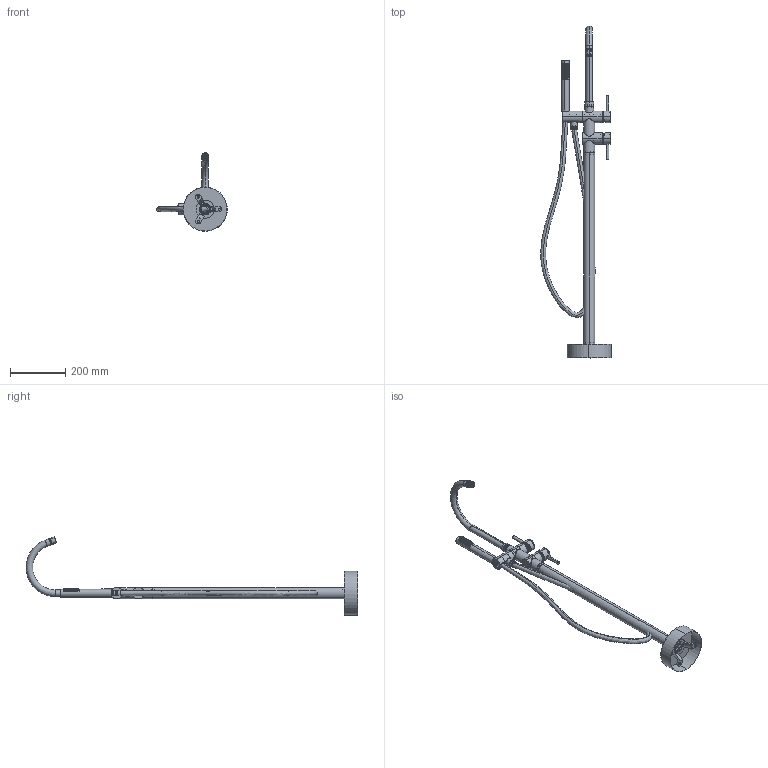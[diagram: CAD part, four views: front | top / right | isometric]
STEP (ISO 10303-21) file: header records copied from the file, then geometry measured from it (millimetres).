
FILE_DESCRIPTION (( 'STEP AP214' ), '1' );
FILE_NAME ('9103.STEP', '2020-02-06T05:59:07', ( '微软用户' ), ( '微软中国' ), 'SwSTEP 2.0', 'SolidWorks 2014', '' );
FILE_SCHEMA (( 'AUTOMOTIVE_DESIGN' ));
Length unit declared in the file: millimetre
Products named in the file (27): 8703花洒; 9103煦阨极(ぱ籵35郋); 9103花洒接牙; 9103肣奪(35郋); 9103忒謫裝ㄗ35郋ㄘ; 9103樓詢杶(35郋); 27.8X24X1.2减磨圈; 9103极(ぱ籵35郋); 9103郋ㄗ35郋ㄘ; 24奪誘杶; 9103; 9103蚾庉戚ㄗ35郋ㄘ; 35-1蚾庉戚ㄗ呿蹋ㄘ; 35揤裔; D35P; 9103忒梟(35郋); 9103菁攫ㄗ35郋ㄘ; 9111嘐隅杶; 三爪卡盆; 9103肣奪ㄗ35郋ㄘ; 115擋杶; 115埴倛奪; 9103奪杶ㄗ35郋ㄘ; 9103花洒管; 9103諉杶ㄗ35郋ㄘ; 20厙郋; 9103花洒座（35芯）
Assembly tree (31 placements, depth 2):
  9103
    9103极(ぱ籵35郋)
    9103樓詢杶(35郋)
    9103肣奪(35郋)
    9103煦阨极(ぱ籵35郋)
    9103花洒座（35芯）
    9103諉杶ㄗ35郋ㄘ
    9103奪杶ㄗ35郋ㄘ
    115埴倛奪
    115擋杶
    9103肣奪ㄗ35郋ㄘ
    三爪卡盆
    9111嘐隅杶
    9103菁攫ㄗ35郋ㄘ
    9103忒梟(35郋)  x2
    D35P  x2
    35揤裔  x2
    35-1蚾庉戚ㄗ呿蹋ㄘ  x2
    9103蚾庉戚ㄗ35郋ㄘ
    24奪誘杶
    9103郋ㄗ35郋ㄘ
    27.8X24X1.2减磨圈
    9103忒謫裝ㄗ35郋ㄘ  x2
    9103花洒接牙
    8703花洒
    20厙郋
    9103花洒管
Bounding box: 255.46 x 1203.9 x 284.59 mm (x, y, z)
Volume: 1005124.9 mm3; surface area: 621593.9 mm2
Topology: 30 solids, 33 shells, 3579 faces, 12339 edges, 8155 vertices
Faces by surface type: plane 1826, cylinder 1533, cone 161, torus 32, bspline 25, sphere 2
Entity records: 173012 total; most frequent: CARTESIAN_POINT 71547, ORIENTED_EDGE 23780, DIRECTION 17447, EDGE_CURVE 11892, VERTEX_POINT 7879, AXIS2_PLACEMENT_3D 5959, VECTOR 5529, LINE 5529
